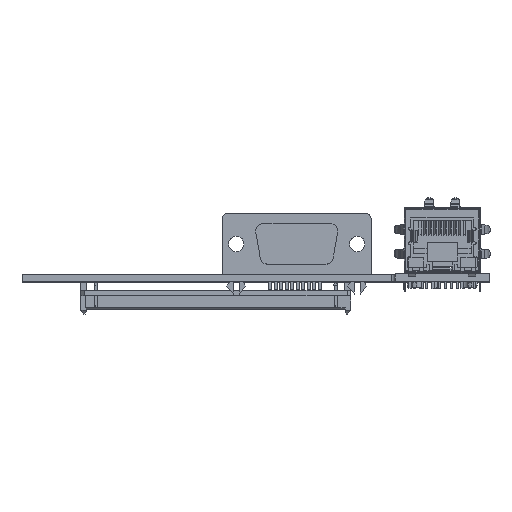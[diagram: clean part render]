
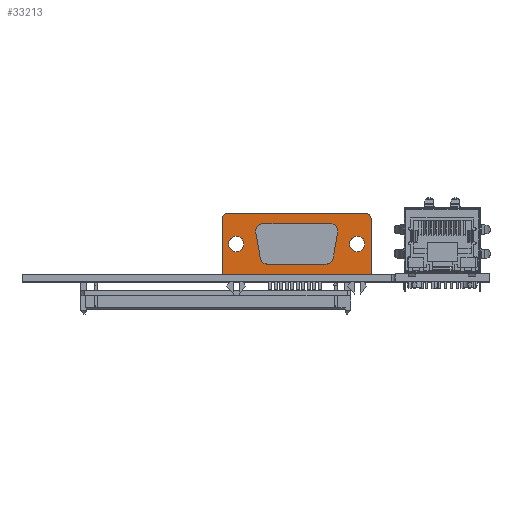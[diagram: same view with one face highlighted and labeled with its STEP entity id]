
A CAD part, top view. The second image highlights one B-rep face of the part: STEP entity #33213.
In plain terms, the highlighted planar face has unit normal (0, 0, 1).
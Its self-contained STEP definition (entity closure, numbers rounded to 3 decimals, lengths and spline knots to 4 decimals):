
#1559=DIRECTION('',(1.,0.,0.));
#1560=VECTOR('',#1559,1.213);
#1561=CARTESIAN_POINT('',(-0.2724,0.062,-0.8358));
#1562=LINE('',#1561,#1560);
#6325=DIRECTION('',(0.,-1.,0.));
#6326=VECTOR('',#6325,0.449);
#6327=CARTESIAN_POINT('',(-0.2724,0.511,-0.8358));
#6328=LINE('',#6327,#6326);
#6329=DIRECTION('',(-1.,0.,0.));
#6330=VECTOR('',#6329,1.123);
#6331=CARTESIAN_POINT('',(0.8956,0.556,-0.8358));
#6332=LINE('',#6331,#6330);
#6333=DIRECTION('',(0.,1.,0.));
#6334=VECTOR('',#6333,0.449);
#6335=CARTESIAN_POINT('',(0.9406,0.062,-0.8358));
#6336=LINE('',#6335,#6334);
#6337=CARTESIAN_POINT('',(-0.1579,0.309,-0.8358));
#6338=DIRECTION('',(0.,0.,1.));
#6339=DIRECTION('',(1.,0.,0.));
#6340=AXIS2_PLACEMENT_3D('',#6337,#6338,#6339);
#6342=CARTESIAN_POINT('',(-0.1579,0.309,-0.8358));
#6343=DIRECTION('',(0.,0.,1.));
#6344=DIRECTION('',(-1.,0.,0.));
#6345=AXIS2_PLACEMENT_3D('',#6342,#6343,#6344);
#6347=CARTESIAN_POINT('',(0.8261,0.309,-0.8358));
#6348=DIRECTION('',(0.,0.,1.));
#6349=DIRECTION('',(1.,0.,0.));
#6350=AXIS2_PLACEMENT_3D('',#6347,#6348,#6349);
#6352=CARTESIAN_POINT('',(0.8261,0.309,-0.8358));
#6353=DIRECTION('',(0.,0.,1.));
#6354=DIRECTION('',(-1.,0.,0.));
#6355=AXIS2_PLACEMENT_3D('',#6352,#6353,#6354);
#6357=DIRECTION('',(1.,0.,0.));
#6358=VECTOR('',#6357,0.4754);
#6359=CARTESIAN_POINT('',(0.0964,0.1445,-0.8358));
#6360=LINE('',#6359,#6358);
#6361=CARTESIAN_POINT('',(0.5718,0.2035,-0.8358));
#6362=DIRECTION('',(0.,0.,1.));
#6363=DIRECTION('',(0.,-1.,0.));
#6364=AXIS2_PLACEMENT_3D('',#6361,#6362,#6363);
#6366=DIRECTION('',(0.174,0.985,0.));
#6367=VECTOR('',#6366,0.2143);
#6368=CARTESIAN_POINT('',(0.6299,0.1933,-0.8358));
#6369=LINE('',#6368,#6367);
#6370=CARTESIAN_POINT('',(0.609,0.4145,-0.8358));
#6371=DIRECTION('',(0.,0.,1.));
#6372=DIRECTION('',(0.985,-0.174,0.));
#6373=AXIS2_PLACEMENT_3D('',#6370,#6371,#6372);
#6375=DIRECTION('',(-1.,0.,0.));
#6376=VECTOR('',#6375,0.5498);
#6377=CARTESIAN_POINT('',(0.609,0.4735,-0.8358));
#6378=LINE('',#6377,#6376);
#6379=CARTESIAN_POINT('',(0.0592,0.4145,-0.8358));
#6380=DIRECTION('',(0.,0.,1.));
#6381=DIRECTION('',(0.,1.,0.));
#6382=AXIS2_PLACEMENT_3D('',#6379,#6380,#6381);
#6384=DIRECTION('',(0.174,-0.985,0.));
#6385=VECTOR('',#6384,0.2143);
#6386=CARTESIAN_POINT('',(0.0011,0.4043,-0.8358));
#6387=LINE('',#6386,#6385);
#6388=CARTESIAN_POINT('',(0.0964,0.2035,-0.8358));
#6389=DIRECTION('',(0.,0.,1.));
#6390=DIRECTION('',(-0.985,-0.174,0.));
#6391=AXIS2_PLACEMENT_3D('',#6388,#6389,#6390);
#6503=CARTESIAN_POINT('',(0.8956,0.511,-0.8358));
#6504=DIRECTION('',(0.,0.,1.));
#6505=DIRECTION('',(1.,0.,0.));
#6506=AXIS2_PLACEMENT_3D('',#6503,#6504,#6505);
#6525=CARTESIAN_POINT('',(-0.2274,0.511,-0.8358));
#6526=DIRECTION('',(0.,0.,1.));
#6527=DIRECTION('',(0.,1.,0.));
#6528=AXIS2_PLACEMENT_3D('',#6525,#6526,#6527);
#21397=CARTESIAN_POINT('',(-0.0954,0.309,-0.8358));
#21398=CARTESIAN_POINT('',(-0.2204,0.309,-0.8358));
#21399=VERTEX_POINT('',#21397);
#21400=VERTEX_POINT('',#21398);
#21401=CARTESIAN_POINT('',(0.8886,0.309,-0.8358));
#21402=CARTESIAN_POINT('',(0.7636,0.309,-0.8358));
#21403=VERTEX_POINT('',#21401);
#21404=VERTEX_POINT('',#21402);
#21461=CARTESIAN_POINT('',(0.0964,0.1445,-0.8358));
#21462=CARTESIAN_POINT('',(0.5718,0.1445,-0.8358));
#21463=VERTEX_POINT('',#21461);
#21464=VERTEX_POINT('',#21462);
#21465=CARTESIAN_POINT('',(0.6671,0.4043,-0.8358));
#21466=CARTESIAN_POINT('',(0.609,0.4735,-0.8358));
#21467=VERTEX_POINT('',#21465);
#21468=VERTEX_POINT('',#21466);
#21477=CARTESIAN_POINT('',(0.6299,0.1933,-0.8358));
#21478=VERTEX_POINT('',#21477);
#21479=CARTESIAN_POINT('',(0.0592,0.4735,-0.8358));
#21480=VERTEX_POINT('',#21479);
#21481=CARTESIAN_POINT('',(0.0011,0.4043,-0.8358));
#21482=VERTEX_POINT('',#21481);
#21483=CARTESIAN_POINT('',(0.0383,0.1933,-0.8358));
#21484=VERTEX_POINT('',#21483);
#21725=CARTESIAN_POINT('',(0.9406,0.511,-0.8358));
#21727=VERTEX_POINT('',#21725);
#21729=CARTESIAN_POINT('',(0.8956,0.556,-0.8358));
#21730=VERTEX_POINT('',#21729);
#21733=CARTESIAN_POINT('',(-0.2274,0.556,-0.8358));
#21735=VERTEX_POINT('',#21733);
#21737=CARTESIAN_POINT('',(-0.2724,0.511,-0.8358));
#21738=VERTEX_POINT('',#21737);
#21745=CARTESIAN_POINT('',(-0.2724,0.062,-0.8358));
#21746=CARTESIAN_POINT('',(0.9406,0.062,-0.8358));
#21747=VERTEX_POINT('',#21745);
#21748=VERTEX_POINT('',#21746);
#33166=CARTESIAN_POINT('',(0.3341,0.309,-0.8358));
#33167=DIRECTION('',(0.,0.,1.));
#33168=DIRECTION('',(1.,0.,0.));
#33169=AXIS2_PLACEMENT_3D('',#33166,#33167,#33168);
#33170=PLANE('',#33169);
#33172=ORIENTED_EDGE('',*,*,#33171,.F.);
#33174=ORIENTED_EDGE('',*,*,#33173,.F.);
#33176=ORIENTED_EDGE('',*,*,#33175,.F.);
#33178=ORIENTED_EDGE('',*,*,#33177,.F.);
#33179=ORIENTED_EDGE('',*,*,#33150,.F.);
#33180=ORIENTED_EDGE('',*,*,#25517,.F.);
#33181=EDGE_LOOP('',(#33172,#33174,#33176,#33178,#33179,#33180));
#33182=FACE_OUTER_BOUND('',#33181,.F.);
#33184=ORIENTED_EDGE('',*,*,#33183,.T.);
#33186=ORIENTED_EDGE('',*,*,#33185,.T.);
#33187=EDGE_LOOP('',(#33184,#33186));
#33188=FACE_BOUND('',#33187,.F.);
#33190=ORIENTED_EDGE('',*,*,#33189,.T.);
#33192=ORIENTED_EDGE('',*,*,#33191,.T.);
#33193=EDGE_LOOP('',(#33190,#33192));
#33194=FACE_BOUND('',#33193,.F.);
#33196=ORIENTED_EDGE('',*,*,#33195,.T.);
#33198=ORIENTED_EDGE('',*,*,#33197,.T.);
#33200=ORIENTED_EDGE('',*,*,#33199,.T.);
#33202=ORIENTED_EDGE('',*,*,#33201,.T.);
#33204=ORIENTED_EDGE('',*,*,#33203,.T.);
#33206=ORIENTED_EDGE('',*,*,#33205,.T.);
#33208=ORIENTED_EDGE('',*,*,#33207,.T.);
#33210=ORIENTED_EDGE('',*,*,#33209,.T.);
#33211=EDGE_LOOP('',(#33196,#33198,#33200,#33202,#33204,#33206,#33208,#33210));
#33212=FACE_BOUND('',#33211,.F.);
#33213=ADVANCED_FACE('',(#33182,#33188,#33194,#33212),#33170,.T.);
#6341=CIRCLE('',#6340,0.0625);
#6346=CIRCLE('',#6345,0.0625);
#6351=CIRCLE('',#6350,0.0625);
#6356=CIRCLE('',#6355,0.0625);
#6365=CIRCLE('',#6364,0.059);
#6374=CIRCLE('',#6373,0.059);
#6383=CIRCLE('',#6382,0.059);
#6392=CIRCLE('',#6391,0.059);
#6507=CIRCLE('',#6506,0.045);
#6529=CIRCLE('',#6528,0.045);
#25517=EDGE_CURVE('',#21747,#21748,#1562,.T.);
#33150=EDGE_CURVE('',#21748,#21727,#6336,.T.);
#33171=EDGE_CURVE('',#21738,#21747,#6328,.T.);
#33173=EDGE_CURVE('',#21735,#21738,#6529,.T.);
#33175=EDGE_CURVE('',#21730,#21735,#6332,.T.);
#33177=EDGE_CURVE('',#21727,#21730,#6507,.T.);
#33183=EDGE_CURVE('',#21399,#21400,#6341,.T.);
#33185=EDGE_CURVE('',#21400,#21399,#6346,.T.);
#33189=EDGE_CURVE('',#21403,#21404,#6351,.T.);
#33191=EDGE_CURVE('',#21404,#21403,#6356,.T.);
#33195=EDGE_CURVE('',#21463,#21464,#6360,.T.);
#33197=EDGE_CURVE('',#21464,#21478,#6365,.T.);
#33199=EDGE_CURVE('',#21478,#21467,#6369,.T.);
#33201=EDGE_CURVE('',#21467,#21468,#6374,.T.);
#33203=EDGE_CURVE('',#21468,#21480,#6378,.T.);
#33205=EDGE_CURVE('',#21480,#21482,#6383,.T.);
#33207=EDGE_CURVE('',#21482,#21484,#6387,.T.);
#33209=EDGE_CURVE('',#21484,#21463,#6392,.T.);
